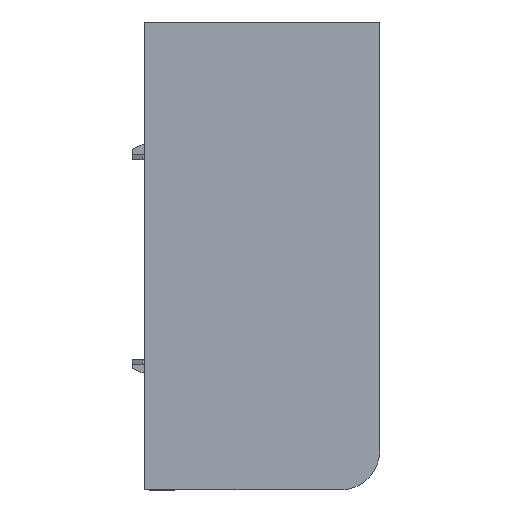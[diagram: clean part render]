
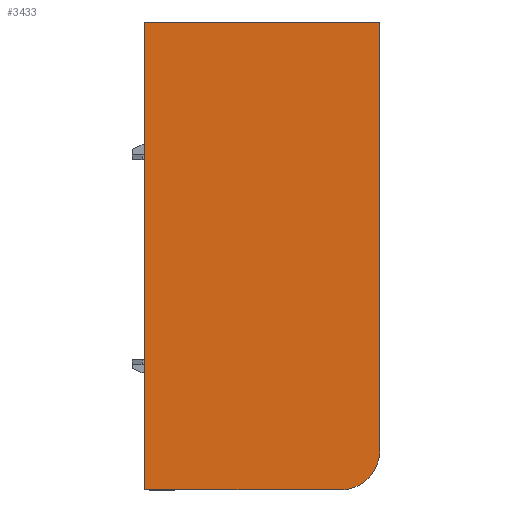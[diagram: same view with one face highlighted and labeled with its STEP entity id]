
A CAD part, top view. The second image highlights one B-rep face of the part: STEP entity #3433.
In plain terms, the highlighted planar face has unit normal (0, 0, 1).
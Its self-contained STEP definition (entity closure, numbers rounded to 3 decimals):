
#49=FACE_OUTER_BOUND('',#232,.T.);
#232=EDGE_LOOP('',(#2249,#2250,#2251,#2252,#2253));
#427=CIRCLE('',#3619,8.);
#460=LINE('',#4755,#931);
#461=LINE('',#4759,#932);
#462=LINE('',#4761,#933);
#463=LINE('',#4762,#934);
#931=VECTOR('',#3842,40.);
#932=VECTOR('',#3845,87.5);
#933=VECTOR('',#3846,48.);
#934=VECTOR('',#3847,95.5);
#1402=VERTEX_POINT('',#4753);
#1403=VERTEX_POINT('',#4754);
#1404=VERTEX_POINT('',#4756);
#1405=VERTEX_POINT('',#4758);
#1406=VERTEX_POINT('',#4760);
#1740=EDGE_CURVE('',#1402,#1403,#460,.T.);
#1741=EDGE_CURVE('',#1403,#1404,#427,.T.);
#1742=EDGE_CURVE('',#1404,#1405,#461,.T.);
#1743=EDGE_CURVE('',#1405,#1406,#462,.T.);
#1744=EDGE_CURVE('',#1406,#1402,#463,.T.);
#2249=ORIENTED_EDGE('',*,*,#1740,.T.);
#2250=ORIENTED_EDGE('',*,*,#1741,.T.);
#2251=ORIENTED_EDGE('',*,*,#1742,.T.);
#2252=ORIENTED_EDGE('',*,*,#1743,.T.);
#2253=ORIENTED_EDGE('',*,*,#1744,.T.);
#3267=PLANE('',#3618);
#3433=ADVANCED_FACE('',(#49),#3267,.T.);
#3618=AXIS2_PLACEMENT_3D('',#4752,#3840,#3841);
#3619=AXIS2_PLACEMENT_3D('',#4757,#3843,#3844);
#3840=DIRECTION('center_axis',(0.,0.,1.));
#3841=DIRECTION('ref_axis',(1.,0.,0.));
#3842=DIRECTION('',(1.,0.,0.));
#3843=DIRECTION('center_axis',(0.,0.,1.));
#3844=DIRECTION('ref_axis',(0.,1.,0.));
#3845=DIRECTION('',(0.,1.,0.));
#3846=DIRECTION('',(-1.,0.,0.));
#3847=DIRECTION('',(0.,-1.,0.));
#4752=CARTESIAN_POINT('Origin',(-24.546,48.853,0.));
#4753=CARTESIAN_POINT('',(-48.,0.,0.));
#4754=CARTESIAN_POINT('',(-8.,0.,0.));
#4755=CARTESIAN_POINT('',(-8.,0.,0.));
#4756=CARTESIAN_POINT('',(0.,8.,0.));
#4757=CARTESIAN_POINT('Origin',(-8.,8.,0.));
#4758=CARTESIAN_POINT('',(0.,95.5,0.));
#4759=CARTESIAN_POINT('',(0.,95.5,0.));
#4760=CARTESIAN_POINT('',(-48.,95.5,0.));
#4761=CARTESIAN_POINT('',(-48.,95.5,0.));
#4762=CARTESIAN_POINT('',(-48.,0.,0.));
